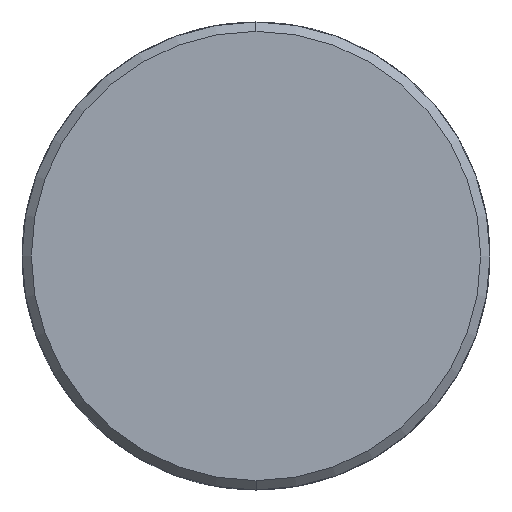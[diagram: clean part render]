
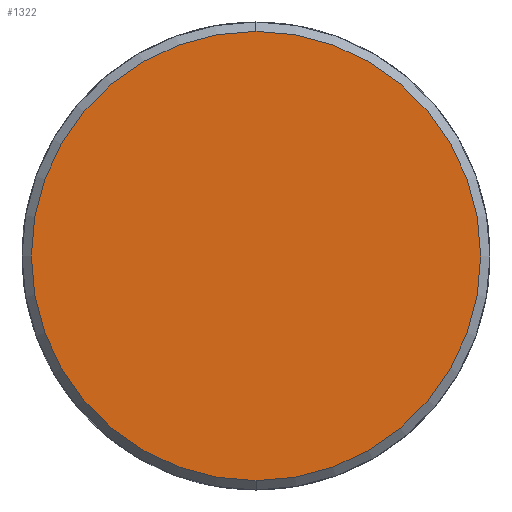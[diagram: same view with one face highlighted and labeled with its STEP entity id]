
A CAD part, left-side view. The second image highlights one B-rep face of the part: STEP entity #1322.
In plain terms, the highlighted planar face has unit normal (-1, 0, 0).
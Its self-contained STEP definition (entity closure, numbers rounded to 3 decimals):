
#519 = AXIS2_PLACEMENT_3D ( 'NONE', #6143, #2392, #6763 ) ;
#623 = ORIENTED_EDGE ( 'NONE', *, *, #5591, .F. ) ;
#737 = AXIS2_PLACEMENT_3D ( 'NONE', #1759, #6116, #2372 ) ;
#912 = CARTESIAN_POINT ( 'NONE',  ( 0., 0., -12. ) ) ;
#1322 = ADVANCED_FACE ( 'NONE', ( #6790 ), #1822, .T. ) ;
#1757 = DIRECTION ( 'NONE',  ( 0., 0., 1. ) ) ;
#1759 = CARTESIAN_POINT ( 'NONE',  ( 0., 0., 0. ) ) ;
#1760 = DIRECTION ( 'NONE',  ( -1., 0., 0. ) ) ;
#1768 = CARTESIAN_POINT ( 'NONE',  ( 0., 0., 0. ) ) ;
#1822 = PLANE ( 'NONE',  #6558 ) ;
#2209 = VERTEX_POINT ( 'NONE', #912 ) ;
#2372 = DIRECTION ( 'NONE',  ( 0., 0., -1. ) ) ;
#2392 = DIRECTION ( 'NONE',  ( 1., 0., 0. ) ) ;
#2636 = CARTESIAN_POINT ( 'NONE',  ( 0., 0., 12. ) ) ;
#4519 = CIRCLE ( 'NONE', #737, 12. ) ;
#5127 = VERTEX_POINT ( 'NONE', #2636 ) ;
#5591 = EDGE_CURVE ( 'NONE', #2209, #5127, #4519, .T. ) ;
#5881 = EDGE_CURVE ( 'NONE', #5127, #2209, #6103, .T. ) ;
#5954 = ORIENTED_EDGE ( 'NONE', *, *, #5881, .F. ) ;
#6103 = CIRCLE ( 'NONE', #519, 12. ) ;
#6116 = DIRECTION ( 'NONE',  ( 1., 0., 0. ) ) ;
#6143 = CARTESIAN_POINT ( 'NONE',  ( 0., 0., 0. ) ) ;
#6527 = EDGE_LOOP ( 'NONE', ( #623, #5954 ) ) ;
#6558 = AXIS2_PLACEMENT_3D ( 'NONE', #1768, #1760, #1757 ) ;
#6763 = DIRECTION ( 'NONE',  ( 0., 0., -1. ) ) ;
#6790 = FACE_OUTER_BOUND ( 'NONE', #6527, .T. ) ;
